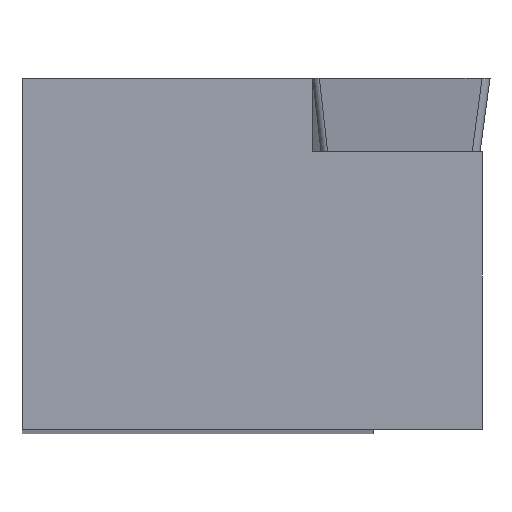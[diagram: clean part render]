
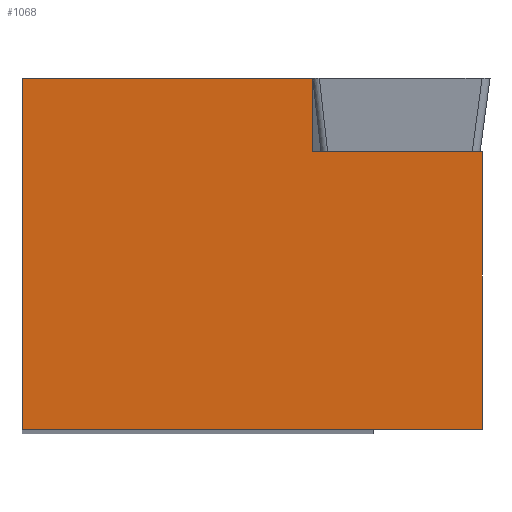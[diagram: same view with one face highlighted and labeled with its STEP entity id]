
A CAD part, top view. The second image highlights one B-rep face of the part: STEP entity #1068.
In plain terms, the highlighted planar face has unit normal (-0.087, 0, 0.996).
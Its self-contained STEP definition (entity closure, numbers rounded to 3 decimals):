
#4 = FACE_OUTER_BOUND ( 'NONE', #1073, .T. ) ;
#17 = VECTOR ( 'NONE', #770, 1000. ) ;
#51 = ORIENTED_EDGE ( 'NONE', *, *, #514, .T. ) ;
#83 = VECTOR ( 'NONE', #892, 1000. ) ;
#131 = CARTESIAN_POINT ( 'NONE',  ( 3.067, 7.455, -1.163 ) ) ;
#160 = PLANE ( 'NONE',  #944 ) ;
#163 = DIRECTION ( 'NONE',  ( 0.087, 0., -0.996 ) ) ;
#236 = ORIENTED_EDGE ( 'NONE', *, *, #499, .T. ) ;
#250 = VERTEX_POINT ( 'NONE', #461 ) ;
#258 = LINE ( 'NONE', #406, #1002 ) ;
#292 = VECTOR ( 'NONE', #808, 1000. ) ;
#295 = CARTESIAN_POINT ( 'NONE',  ( 12.267, -9.525, -0.358 ) ) ;
#309 = CARTESIAN_POINT ( 'NONE',  ( 12.267, -9.525, -0.358 ) ) ;
#330 = VECTOR ( 'NONE', #1066, 1000. ) ;
#334 = CARTESIAN_POINT ( 'NONE',  ( -29.792, -9.525, -4.038 ) ) ;
#367 = ORIENTED_EDGE ( 'NONE', *, *, #559, .F. ) ;
#396 = CARTESIAN_POINT ( 'NONE',  ( 12.267, 5.555, -0.358 ) ) ;
#405 = CARTESIAN_POINT ( 'NONE',  ( -12.7, -9.525, -2.542 ) ) ;
#406 = CARTESIAN_POINT ( 'NONE',  ( 11.907, 5.555, -0.389 ) ) ;
#441 = ORIENTED_EDGE ( 'NONE', *, *, #929, .F. ) ;
#450 = LINE ( 'NONE', #694, #17 ) ;
#460 = CARTESIAN_POINT ( 'NONE',  ( 3.067, 9.525, -1.163 ) ) ;
#461 = CARTESIAN_POINT ( 'NONE',  ( 3.067, 5.555, -1.163 ) ) ;
#473 = EDGE_CURVE ( 'NONE', #940, #1015, #569, .T. ) ;
#499 = EDGE_CURVE ( 'NONE', #839, #758, #933, .T. ) ;
#514 = EDGE_CURVE ( 'NONE', #636, #940, #946, .T. ) ;
#525 = ORIENTED_EDGE ( 'NONE', *, *, #473, .T. ) ;
#557 = DIRECTION ( 'NONE',  ( 0., -1., 0. ) ) ;
#559 = EDGE_CURVE ( 'NONE', #636, #250, #667, .T. ) ;
#569 = LINE ( 'NONE', #1071, #330 ) ;
#636 = VERTEX_POINT ( 'NONE', #460 ) ;
#644 = VECTOR ( 'NONE', #557, 1000. ) ;
#667 = LINE ( 'NONE', #131, #644 ) ;
#694 = CARTESIAN_POINT ( 'NONE',  ( -29.792, -9.525, -4.038 ) ) ;
#695 = DIRECTION ( 'NONE',  ( 0.996, 0., 0.087 ) ) ;
#697 = DIRECTION ( 'NONE',  ( -0.996, 0., -0.087 ) ) ;
#749 = ORIENTED_EDGE ( 'NONE', *, *, #1057, .F. ) ;
#758 = VERTEX_POINT ( 'NONE', #396 ) ;
#770 = DIRECTION ( 'NONE',  ( -0.996, 0., -0.087 ) ) ;
#808 = DIRECTION ( 'NONE',  ( 0., 1., 0. ) ) ;
#839 = VERTEX_POINT ( 'NONE', #309 ) ;
#892 = DIRECTION ( 'NONE',  ( -0.996, 0., -0.087 ) ) ;
#929 = EDGE_CURVE ( 'NONE', #250, #758, #258, .T. ) ;
#933 = LINE ( 'NONE', #295, #292 ) ;
#940 = VERTEX_POINT ( 'NONE', #1011 ) ;
#944 = AXIS2_PLACEMENT_3D ( 'NONE', #334, #163, #697 ) ;
#946 = LINE ( 'NONE', #1062, #83 ) ;
#1002 = VECTOR ( 'NONE', #695, 1000. ) ;
#1011 = CARTESIAN_POINT ( 'NONE',  ( -12.7, 9.525, -2.542 ) ) ;
#1015 = VERTEX_POINT ( 'NONE', #405 ) ;
#1057 = EDGE_CURVE ( 'NONE', #839, #1015, #450, .T. ) ;
#1062 = CARTESIAN_POINT ( 'NONE',  ( -29.792, 9.525, -4.038 ) ) ;
#1066 = DIRECTION ( 'NONE',  ( 0., -1., 0. ) ) ;
#1068 = ADVANCED_FACE ( 'NONE', ( #4 ), #160, .F. ) ;
#1071 = CARTESIAN_POINT ( 'NONE',  ( -12.7, 9.525, -2.542 ) ) ;
#1073 = EDGE_LOOP ( 'NONE', ( #525, #749, #236, #441, #367, #51 ) ) ;
